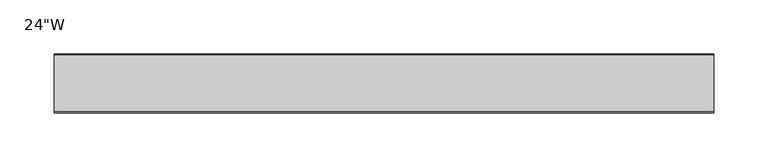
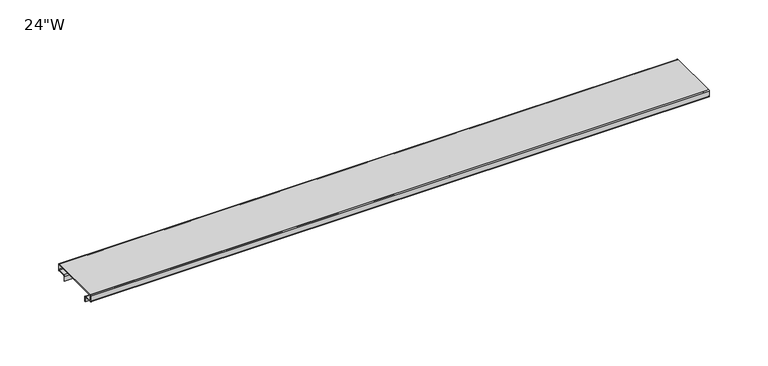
"""IFC4 building model written with IfcOpenShell, lengths in millimetres: furniture geometry."""

from ifc_helpers import new_model, si_unit, point, frame, frame_2d, origin, place, context, project, spatial, polyline, circle_curve, trimmed, segment, composite_curve, outline, extrude, source, transform, mapped, element, save


def furniture_bea5105c(model_context):
    return source(origin(), model_context, "Body", "SweptSolid", [
        extrude(outline(composite_curve([segment(polyline([(-2.4497237, 10.5426182), (-54.6474876, 10.5426182)]), True, "CONTINUOUS"), segment(trimmed(circle_curve(frame_2d((-54.6474876, 9.9453493)), 0.597269), [point((-54.6474876, 10.5426182))], [point((-55.2447566, 9.9453493))], True, "CARTESIAN"), True, "CONTINUOUS"), segment(polyline([(-55.2447566, 9.9453493), (-55.2447566, 5.3649738)]), True, "CONTINUOUS"), segment(trimmed(circle_curve(frame_2d((-54.7074007, 5.3649738)), 0.5373558), [point((-55.2447566, 5.3649738))], [point((-54.7074007, 4.827618))], True, "CARTESIAN"), True, "CONTINUOUS"), segment(polyline([(-54.7074007, 4.827618), (-47.0858895, 4.827618)]), True, "CONTINUOUS"), segment(trimmed(circle_curve(frame_2d((-47.0858895, 3.6413082)), 1.1863098), [point((-47.0858895, 4.827618))], [point((-45.8995796, 3.6413082))], False, "CARTESIAN"), True, "CONTINUOUS"), segment(polyline([(-45.8995796, 3.6413082), (-45.8995796, -1.2810822), (-46.6852, -1.2810822), (-46.7331686, 3.6716641)]), True, "CONTINUOUS"), segment(trimmed(circle_curve(frame_2d((-47.2463687, 3.6666936)), 0.5132242), [point((-46.7331686, 3.6716641))], [point((-47.2463687, 4.1799178))], True, "CARTESIAN"), True, "CONTINUOUS"), segment(polyline([(-47.2463687, 4.1799178), (-54.9306746, 4.1799178)]), True, "CONTINUOUS"), segment(trimmed(circle_curve(frame_2d((-54.9306746, 5.1927443)), 1.0128265), [point((-54.9306746, 4.1799178))], [point((-55.9435012, 5.1927443))], False, "CARTESIAN"), True, "CONTINUOUS"), segment(polyline([(-55.9435012, 5.1927443), (-55.9435012, 10.1493596)]), True, "CONTINUOUS"), segment(trimmed(circle_curve(frame_2d((-54.9025429, 10.1493596)), 1.0409582), [point((-55.9435012, 10.1493596))], [point((-54.9025429, 11.1903178))], False, "CARTESIAN"), True, "CONTINUOUS"), segment(polyline([(-54.9025429, 11.1903178), (-2.2429588, 11.1903178)]), True, "CONTINUOUS"), segment(trimmed(circle_curve(frame_2d((-2.2429588, 10.153859)), 1.0364588), [point((-2.2429588, 11.1903178))], [point((-1.2065, 10.153859))], False, "CARTESIAN"), True, "CONTINUOUS"), segment(polyline([(-1.2065, 10.153859), (-1.2065, 5.1905339)]), True, "CONTINUOUS"), segment(trimmed(circle_curve(frame_2d((-2.21698, 5.1905339)), 1.01048), [point((-1.2065, 5.1905339))], [point((-2.2105641, 4.1800742))], False, "CARTESIAN"), True, "CONTINUOUS"), segment(polyline([(-2.2105641, 4.1800742), (-9.9271812, 4.1310774)]), True, "CONTINUOUS"), segment(trimmed(circle_curve(frame_2d((-9.9237459, 3.5900342)), 0.5410541), [point((-9.9271812, 4.1310774))], [point((-10.4648, 3.5900342))], True, "CARTESIAN"), True, "CONTINUOUS"), segment(polyline([(-10.4648, 3.5900342), (-10.4648, -1.2810822), (-11.2466577, -1.2810822), (-11.2466577, 3.6880568)]), True, "CONTINUOUS"), segment(trimmed(circle_curve(frame_2d((-10.1070965, 3.6880568)), 1.1395612), [point((-11.2466577, 3.6880568))], [point((-10.1070965, 4.827618))], False, "CARTESIAN"), True, "CONTINUOUS"), segment(polyline([(-10.1070965, 4.827618), (-2.3973822, 4.827618)]), True, "CONTINUOUS"), segment(trimmed(circle_curve(frame_2d((-2.3973822, 5.3708002)), 0.5431822), [point((-2.3973822, 4.827618))], [point((-1.8542, 5.3708002))], True, "CARTESIAN"), True, "CONTINUOUS"), segment(polyline([(-1.8542, 5.3708002), (-1.8542, 9.9470946)]), True, "CONTINUOUS"), segment(trimmed(circle_curve(frame_2d((-2.4497237, 9.9470946)), 0.5955237), [point((-1.8542, 9.9470946))], [point((-2.4497237, 10.5426182))], True, "CARTESIAN"), True, "CONTINUOUS")], self_intersect=False)), frame((-304.8, 0.0, 0.0), z_axis=(1.0, 0.0, 0.0), x_axis=(0.0, 1.0, 0.0)), (0.0, 0.0, 1.0), 609.6),
    ])


if __name__ == "__main__":
    model = new_model("IFC4")
    model_context = context("Model", 3, world=origin())
    ifc_project = project(units=[si_unit("LENGTHUNIT", "METRE", prefix="MILLI")], contexts=[model_context])
    site = spatial("IfcSite", under=ifc_project)
    building = spatial("IfcBuilding", under=site)
    placement = place(None, origin())
    furniture_shape = furniture_bea5105c(model_context)
    element("IfcFurniture", 1, ObjectType="HON - Accelerate - Top Cap : 24\"W", at=placement, inside=building, context=model_context, shape_type="MappedRepresentation", body=[
        mapped(furniture_shape, transform((0.0, 0.0, 0.0), x_axis=(1.0, 0.0, 0.0), y_axis=(0.0, 1.0, 0.0), z_axis=(0.0, 0.0, 1.0))),
    ])
    save(model, "model.ifc")
